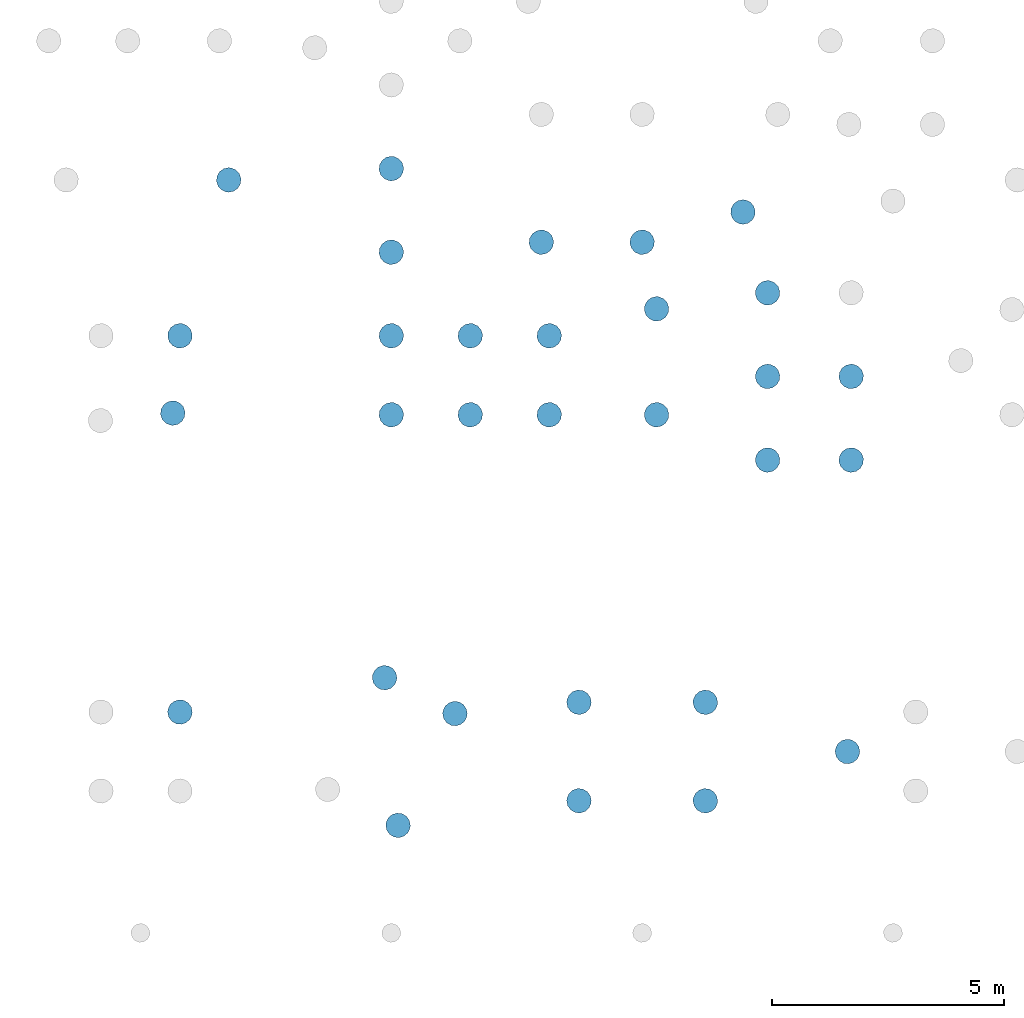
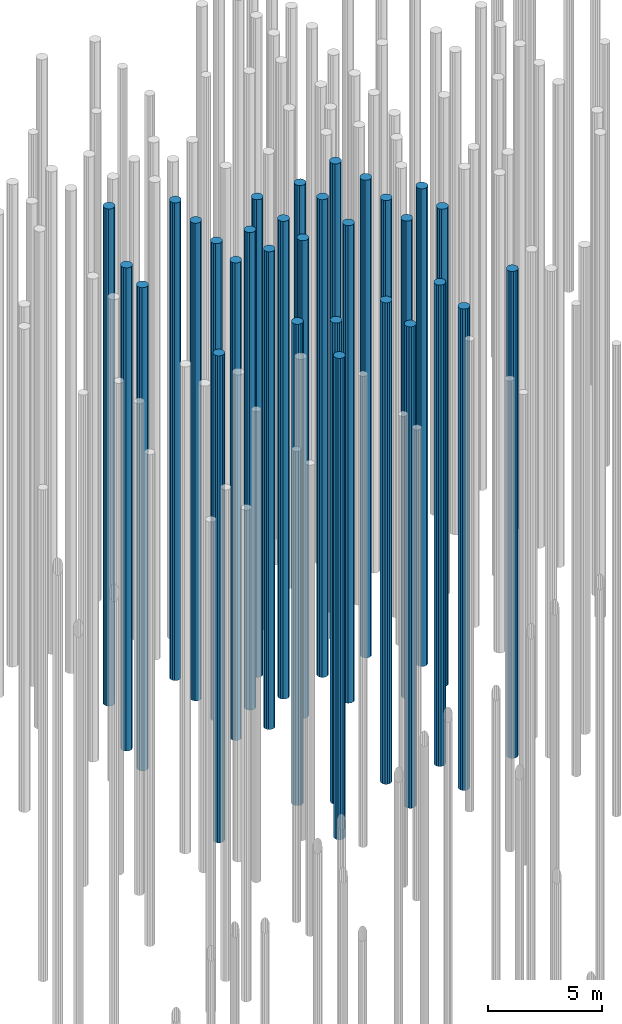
# One storey, part 7 of 20: 30 piles.
"""IFC2X3 building model written with IfcOpenShell, lengths in millimetres."""

from ifc_helpers import new_model, entity, si_unit, converted_unit, derived_unit, direction, frame, origin, place, context, subcontext, project, spatial, polyline, outline, extrude, material, element, save


model = new_model("IFC2X3")

# Units and contexts
model_context = context("Model", 3, precision=0.01, world=origin(), true_north=direction((6.12303176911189e-17, 1.0)))
body_context = subcontext(model_context, "Body", "Model", "MODEL_VIEW")
ifc_project = project(units=[si_unit("LENGTHUNIT", "METRE", prefix="MILLI"), si_unit("AREAUNIT", "SQUARE_METRE"), si_unit("VOLUMEUNIT", "CUBIC_METRE"), converted_unit("PLANEANGLEUNIT", "DEGREE", entity("IfcRatioMeasure", 0.0174532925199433), si_unit("PLANEANGLEUNIT", "RADIAN"), dimensions=[0, 0, 0, 0, 0, 0, 0]), si_unit("MASSUNIT", "GRAM", prefix="KILO"), derived_unit("MASSDENSITYUNIT", [(si_unit("MASSUNIT", "GRAM", prefix="KILO"), 1), (si_unit("LENGTHUNIT", "METRE"), -3)]), si_unit("TIMEUNIT", "SECOND"), si_unit("FREQUENCYUNIT", "HERTZ"), si_unit("THERMODYNAMICTEMPERATUREUNIT", "DEGREE_CELSIUS"), derived_unit("THERMALTRANSMITTANCEUNIT", [(si_unit("MASSUNIT", "GRAM", prefix="KILO"), 1), (si_unit("THERMODYNAMICTEMPERATUREUNIT", "KELVIN"), -1), (si_unit("TIMEUNIT", "SECOND"), -3)]), derived_unit("VOLUMETRICFLOWRATEUNIT", [(si_unit("LENGTHUNIT", "METRE"), 3), (si_unit("TIMEUNIT", "SECOND"), -1)]), si_unit("ELECTRICCURRENTUNIT", "AMPERE"), si_unit("ELECTRICVOLTAGEUNIT", "VOLT"), si_unit("POWERUNIT", "WATT"), si_unit("FORCEUNIT", "NEWTON", prefix="KILO"), si_unit("ILLUMINANCEUNIT", "LUX"), si_unit("LUMINOUSFLUXUNIT", "LUMEN"), si_unit("LUMINOUSINTENSITYUNIT", "CANDELA"), derived_unit("USERDEFINED", [(si_unit("MASSUNIT", "GRAM", prefix="KILO"), -1), (si_unit("LENGTHUNIT", "METRE"), -2), (si_unit("TIMEUNIT", "SECOND"), 3), (si_unit("LUMINOUSFLUXUNIT", "LUMEN"), 1)]), derived_unit("LINEARVELOCITYUNIT", [(si_unit("LENGTHUNIT", "METRE"), 1), (si_unit("TIMEUNIT", "SECOND"), -1)]), si_unit("PRESSUREUNIT", "PASCAL"), derived_unit("USERDEFINED", [(si_unit("LENGTHUNIT", "METRE"), -2), (si_unit("MASSUNIT", "GRAM", prefix="KILO"), 1), (si_unit("TIMEUNIT", "SECOND"), -2)])], contexts=[model_context])

# Site, building, storey
site_placement = place(None, origin())
site = spatial("IfcSite", under=ifc_project, at=site_placement, Name="Default", CompositionType="ELEMENT")
building_placement = place(site_placement, origin())
building = spatial("IfcBuilding", under=site, at=building_placement, Name="niet gebruiken", CompositionType="ELEMENT")
storey_placement = place(building_placement, frame((0.0, 0.0, -4000.0)))
storey = spatial("IfcBuildingStorey", under=building, at=storey_placement, Name="Level t.b.v. palenplan", CompositionType="ELEMENT", Elevation=-4000.0)

# Piles
ifc_material = material(Name="NLRS_f2_beton ihwg")
pile_1_placement = place(storey_placement, origin())
element("IfcPile", 1, at=pile_1_placement, inside=storey, material=ifc_material, Name="NLRS_17.12_SFO_TLB_funderingspaal grondverdringend_gen:Fundex_r530/650", ObjectType="NLRS_17.12_SFO_TLB_funderingspaal grondverdringend_gen:Fundex_r530/650", context=body_context, shape_type="SweptSolid", body=[
    extrude(outline(polyline([(-55.0965980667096, -259.209114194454), (55.0965980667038, -259.209114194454), (155.763091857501, -214.389503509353), (229.496732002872, -132.499999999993), (263.548302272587, -27.7000427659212), (252.029976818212, 81.8895035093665), (196.933378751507, 177.319610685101), (107.785210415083, 242.089546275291), (55.0965980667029, 259.209114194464), (-55.0965980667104, 259.209114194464), (-155.763091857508, 214.389503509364), (-229.496732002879, 132.500000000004), (-263.548302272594, 27.7000427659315), (-252.029976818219, -81.8895035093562), (-196.933378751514, -177.319610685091), (-107.78521041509, -242.089546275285), (-55.0965980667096, -259.209114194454)])), frame((33250.0, 29731.0, -23600.0), z_axis=(0.0, 0.0, 1.0), x_axis=(0.207911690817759, -0.978147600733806, 0.0)), (0.0, 0.0, 1.0), 26070.0),
])
pile_2_placement = place(storey_placement, origin())
element("IfcPile", 2, at=pile_2_placement, inside=storey, material=ifc_material, Name="NLRS_17.12_SFO_TLB_funderingspaal grondverdringend_gen:Fundex_r530/650", ObjectType="NLRS_17.12_SFO_TLB_funderingspaal grondverdringend_gen:Fundex_r530/650", context=body_context, shape_type="SweptSolid", body=[
    extrude(outline(polyline([(-55.0965980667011, -259.209114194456), (55.0965980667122, -259.209114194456), (155.76309185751, -214.389503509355), (229.49673200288, -132.499999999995), (263.548302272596, -27.700042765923), (252.029976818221, 81.8895035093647), (196.933378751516, 177.3196106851), (107.785210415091, 242.089546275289), (55.0965980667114, 259.209114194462), (-55.096598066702, 259.209114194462), (-155.763091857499, 214.389503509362), (-229.49673200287, 132.500000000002), (-263.548302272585, 27.7000427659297), (-252.029976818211, -81.889503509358), (-196.933378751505, -177.319610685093), (-107.785210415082, -242.089546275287), (-55.0965980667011, -259.209114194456)])), frame((37655.0, 30470.0, -23600.0), z_axis=(0.0, 0.0, 1.0), x_axis=(0.207911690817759, -0.978147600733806, 0.0)), (0.0, 0.0, 1.0), 25770.0),
])
pile_3_placement = place(storey_placement, origin())
element("IfcPile", 3, at=pile_3_placement, inside=storey, material=ifc_material, Name="NLRS_17.12_SFO_TLB_funderingspaal grondverdringend_gen:Fundex_r530/650", ObjectType="NLRS_17.12_SFO_TLB_funderingspaal grondverdringend_gen:Fundex_r530/650", context=body_context, shape_type="SweptSolid", body=[
    extrude(outline(polyline([(-55.0965980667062, -259.209114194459), (55.0965980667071, -259.209114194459), (155.763091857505, -214.389503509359), (229.496732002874, -132.500000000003), (263.54830227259, -27.7000427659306), (252.029976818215, 81.8895035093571), (196.933378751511, 177.319610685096), (107.785210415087, 242.08954627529), (55.0965980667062, 259.209114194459), (-55.096598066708, 259.209114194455), (-155.763091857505, 214.389503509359), (-229.496732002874, 132.500000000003), (-263.54830227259, 27.7000427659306), (-252.029976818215, -81.8895035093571), (-196.933378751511, -177.319610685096), (-107.785210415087, -242.08954627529), (-55.0965980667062, -259.209114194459)])), frame((39170.0, 29698.0, -23600.0), z_axis=(0.0, 0.0, 1.0), x_axis=(0.207911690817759, -0.978147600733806, 0.0)), (0.0, 0.0, 1.0), 25770.0),
])
pile_4_placement = place(storey_placement, origin())
element("IfcPile", 4, at=pile_4_placement, inside=storey, material=ifc_material, Name="NLRS_17.12_SFO_TLB_funderingspaal grondverdringend_gen:Fundex_r530/650", ObjectType="NLRS_17.12_SFO_TLB_funderingspaal grondverdringend_gen:Fundex_r530/650", context=body_context, shape_type="SweptSolid", body=[
    extrude(outline(polyline([(-55.0965980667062, -259.209114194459), (55.0965980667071, -259.209114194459), (155.763091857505, -214.389503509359), (229.496732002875, -132.499999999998), (263.548302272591, -27.7000427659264), (252.029976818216, 81.8895035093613), (196.933378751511, 177.319610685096), (107.785210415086, 242.089546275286), (55.0965980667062, 259.209114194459), (-55.0965980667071, 259.209114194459), (-155.763091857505, 214.389503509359), (-229.496732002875, 132.499999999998), (-263.548302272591, 27.7000427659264), (-252.029976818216, -81.8895035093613), (-196.933378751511, -177.319610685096), (-107.785210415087, -242.08954627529), (-55.0965980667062, -259.209114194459)])), frame((37945.0, 27292.0, -23600.0), z_axis=(0.0, 0.0, 1.0), x_axis=(0.207911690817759, -0.978147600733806, 0.0)), (0.0, 0.0, 1.0), 25770.0),
])
pile_5_placement = place(storey_placement, origin())
element("IfcPile", 5, at=pile_5_placement, inside=storey, material=ifc_material, Name="NLRS_17.12_SFO_TLB_funderingspaal grondverdringend_gen:Fundex_r530/650", ObjectType="NLRS_17.12_SFO_TLB_funderingspaal grondverdringend_gen:Fundex_r530/650", context=body_context, shape_type="SweptSolid", body=[
    extrude(outline(polyline([(-55.0965980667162, -259.209114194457), (55.096598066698, -259.209114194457), (155.763091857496, -214.389503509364), (229.496732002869, -132.500000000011), (263.548302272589, -27.7000427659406), (252.029976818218, 81.8895035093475), (196.933378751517, 177.319610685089), (107.785210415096, 242.089546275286), (55.0965980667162, 259.209114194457), (-55.096598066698, 259.209114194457), (-155.763091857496, 214.389503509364), (-229.496732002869, 132.500000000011), (-263.548302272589, 27.7000427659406), (-252.029976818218, -81.8895035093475), (-196.933378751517, -177.319610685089), (-107.785210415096, -242.089546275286), (-55.0965980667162, -259.209114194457)])), frame((41840.0, 29941.0, -23600.0), z_axis=(0.0, 0.0, 1.0), x_axis=(0.207911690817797, -0.978147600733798, 0.0)), (0.0, 0.0, 1.0), 25770.0),
])
pile_6_placement = place(storey_placement, origin())
element("IfcPile", 6, at=pile_6_placement, inside=storey, material=ifc_material, Name="NLRS_17.12_SFO_TLB_funderingspaal grondverdringend_gen:Fundex_r530/650", ObjectType="NLRS_17.12_SFO_TLB_funderingspaal grondverdringend_gen:Fundex_r530/650", context=body_context, shape_type="SweptSolid", body=[
    extrude(outline(polyline([(-55.0965980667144, -259.209114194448), (55.0965980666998, -259.209114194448), (155.763091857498, -214.389503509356), (229.496732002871, -132.500000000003), (263.54830227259, -27.7000427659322), (252.02997681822, 81.889503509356), (196.933378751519, 177.319610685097), (107.785210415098, 242.089546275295), (55.096598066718, 259.209114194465), (-55.0965980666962, 259.209114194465), (-155.763091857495, 214.389503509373), (-229.496732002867, 132.50000000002), (-263.548302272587, 27.7000427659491), (-252.029976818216, -81.8895035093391), (-196.933378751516, -177.31961068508), (-107.785210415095, -242.089546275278), (-55.0965980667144, -259.209114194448)])), frame((44560.0, 29941.0, -23600.0), z_axis=(0.0, 0.0, 1.0), x_axis=(0.207911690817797, -0.978147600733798, 0.0)), (0.0, 0.0, 1.0), 25770.0),
])
pile_7_placement = place(storey_placement, origin())
element("IfcPile", 7, at=pile_7_placement, inside=storey, material=ifc_material, Name="NLRS_17.12_SFO_TLB_funderingspaal grondverdringend_gen:Fundex_r530/650", ObjectType="NLRS_17.12_SFO_TLB_funderingspaal grondverdringend_gen:Fundex_r530/650", context=body_context, shape_type="SweptSolid", body=[
    extrude(outline(polyline([(-55.0965980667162, -259.209114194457), (55.096598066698, -259.209114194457), (155.763091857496, -214.389503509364), (229.496732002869, -132.500000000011), (263.548302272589, -27.7000427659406), (252.029976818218, 81.8895035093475), (196.933378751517, 177.319610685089), (107.785210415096, 242.089546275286), (55.0965980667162, 259.209114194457), (-55.096598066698, 259.209114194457), (-155.763091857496, 214.389503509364), (-229.496732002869, 132.500000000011), (-263.548302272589, 27.7000427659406), (-252.029976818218, -81.8895035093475), (-196.933378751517, -177.319610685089), (-107.785210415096, -242.089546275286), (-55.0965980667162, -259.209114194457)])), frame((44560.0, 27821.0, -23600.0), z_axis=(0.0, 0.0, 1.0), x_axis=(0.207911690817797, -0.978147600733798, 0.0)), (0.0, 0.0, 1.0), 25770.0),
])
pile_8_placement = place(storey_placement, origin())
element("IfcPile", 8, at=pile_8_placement, inside=storey, material=ifc_material, Name="NLRS_17.12_SFO_TLB_funderingspaal grondverdringend_gen:Fundex_r530/650", ObjectType="NLRS_17.12_SFO_TLB_funderingspaal grondverdringend_gen:Fundex_r530/650", context=body_context, shape_type="SweptSolid", body=[
    extrude(outline(polyline([(-55.0965980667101, -259.209114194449), (55.0965980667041, -259.209114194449), (155.763091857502, -214.389503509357), (229.496732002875, -132.500000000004), (263.548302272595, -27.7000427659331), (252.029976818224, 81.8895035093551), (196.933378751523, 177.319610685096), (107.785210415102, 242.089546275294), (55.0965980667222, 259.209114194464), (-55.096598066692, 259.209114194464), (-155.76309185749, 214.389503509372), (-229.496732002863, 132.500000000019), (-263.548302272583, 27.7000427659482), (-252.029976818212, -81.8895035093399), (-196.933378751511, -177.319610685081), (-107.78521041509, -242.089546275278), (-55.0965980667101, -259.209114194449)])), frame((41840.0, 27821.0, -23600.0), z_axis=(0.0, 0.0, 1.0), x_axis=(0.207911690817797, -0.978147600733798, 0.0)), (0.0, 0.0, 1.0), 25770.0),
])
pile_9_placement = place(storey_placement, origin())
element("IfcPile", 9, at=pile_9_placement, inside=storey, material=ifc_material, Name="NLRS_17.12_SFO_TLB_funderingspaal grondverdringend_gen:Fundex_r530/650", ObjectType="NLRS_17.12_SFO_TLB_funderingspaal grondverdringend_gen:Fundex_r530/650", context=body_context, shape_type="SweptSolid", body=[
    extrude(outline(polyline([(-55.0965980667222, -259.209114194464), (55.096598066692, -259.209114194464), (155.76309185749, -214.389503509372), (229.496732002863, -132.500000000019), (263.548302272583, -27.7000427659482), (252.029976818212, 81.8895035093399), (196.933378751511, 177.319610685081), (107.78521041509, 242.089546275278), (55.0965980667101, 259.209114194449), (-55.0965980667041, 259.209114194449), (-155.763091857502, 214.389503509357), (-229.496732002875, 132.500000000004), (-263.548302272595, 27.7000427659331), (-252.029976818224, -81.8895035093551), (-196.933378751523, -177.319610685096), (-107.785210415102, -242.089546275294), (-55.0965980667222, -259.209114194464)])), frame((47620.0, 28881.0, -23600.0), z_axis=(0.0, 0.0, 1.0), x_axis=(0.207911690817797, -0.978147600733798, 0.0)), (0.0, 0.0, 1.0), 26070.0),
])
pile_10_placement = place(storey_placement, origin())
element("IfcPile", 10, at=pile_10_placement, inside=storey, material=ifc_material, Name="NLRS_17.12_SFO_TLB_funderingspaal grondverdringend_gen:Fundex_r530/650", ObjectType="NLRS_17.12_SFO_TLB_funderingspaal grondverdringend_gen:Fundex_r530/650", context=body_context, shape_type="SweptSolid", body=[
    extrude(outline(polyline([(-55.096598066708, -259.209114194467), (55.0965980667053, -259.209114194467), (155.763091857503, -214.389503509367), (229.496732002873, -132.500000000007), (263.548302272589, -27.7000427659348), (252.029976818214, 81.8895035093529), (196.933378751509, 177.319610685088), (107.785210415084, 242.089546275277), (55.0965980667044, 259.20911419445), (-55.0965980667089, 259.20911419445), (-155.763091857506, 214.38950350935), (-229.496732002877, 132.49999999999), (-263.548302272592, 27.7000427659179), (-252.029976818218, -81.8895035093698), (-196.933378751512, -177.319610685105), (-107.785210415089, -242.089546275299), (-55.096598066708, -259.209114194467)])), frame((33250.0, 37831.0, -23600.0), z_axis=(0.0, 0.0, 1.0), x_axis=(-0.978147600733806, -0.207911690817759, 0.0)), (0.0, 0.0, 1.0), 25868.0),
])
pile_11_placement = place(storey_placement, origin())
element("IfcPile", 11, at=pile_11_placement, inside=storey, material=ifc_material, Name="NLRS_17.12_SFO_TLB_funderingspaal grondverdringend_gen:Fundex_r530/650", ObjectType="NLRS_17.12_SFO_TLB_funderingspaal grondverdringend_gen:Fundex_r530/650", context=body_context, shape_type="SweptSolid", body=[
    extrude(outline(polyline([(-55.0965980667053, -259.209114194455), (55.096598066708, -259.209114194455), (155.763091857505, -214.389503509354), (229.496732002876, -132.499999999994), (263.548302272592, -27.7000427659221), (252.029976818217, 81.8895035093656), (196.933378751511, 177.3196106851), (107.785210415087, 242.08954627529), (55.0965980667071, 259.209114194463), (-55.0965980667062, 259.209114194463), (-155.763091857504, 214.389503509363), (-229.496732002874, 132.500000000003), (-263.54830227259, 27.7000427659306), (-252.029976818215, -81.8895035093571), (-196.93337875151, -177.319610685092), (-107.785210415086, -242.089546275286), (-55.0965980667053, -259.209114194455)])), frame((33096.0, 36167.0, -23600.0), z_axis=(0.0, 0.0, 1.0), x_axis=(-0.978147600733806, -0.207911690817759, 0.0)), (0.0, 0.0, 1.0), 25868.0),
])
pile_12_placement = place(storey_placement, origin())
element("IfcPile", 12, at=pile_12_placement, inside=storey, material=ifc_material, Name="NLRS_17.12_SFO_TLB_funderingspaal grondverdringend_gen:Fundex_r530/650", ObjectType="NLRS_17.12_SFO_TLB_funderingspaal grondverdringend_gen:Fundex_r530/650", context=body_context, shape_type="SweptSolid", body=[
    extrude(outline(polyline([(-55.0965980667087, -259.20911419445), (55.0965980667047, -259.20911419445), (155.763091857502, -214.389503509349), (229.496732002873, -132.499999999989), (263.548302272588, -27.700042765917), (252.029976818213, 81.8895035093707), (196.933378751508, 177.319610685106), (107.785210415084, 242.089546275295), (55.0965980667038, 259.209114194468), (-55.0965980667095, 259.209114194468), (-155.763091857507, 214.389503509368), (-229.496732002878, 132.500000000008), (-263.548302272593, 27.7000427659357), (-252.029976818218, -81.889503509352), (-196.933378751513, -177.319610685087), (-107.78521041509, -242.089546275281), (-55.0965980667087, -259.20911419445)])), frame((37800.0, 36131.0, -23600.0), z_axis=(0.0, 0.0, 1.0), x_axis=(-0.978147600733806, -0.207911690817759, 0.0)), (0.0, 0.0, 1.0), 25570.0),
])
pile_13_placement = place(storey_placement, origin())
element("IfcPile", 13, at=pile_13_placement, inside=storey, material=ifc_material, Name="NLRS_17.12_SFO_TLB_funderingspaal grondverdringend_gen:Fundex_r530/650", ObjectType="NLRS_17.12_SFO_TLB_funderingspaal grondverdringend_gen:Fundex_r530/650", context=body_context, shape_type="SweptSolid", body=[
    extrude(outline(polyline([(-55.0965980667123, -259.209114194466), (55.0965980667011, -259.209114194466), (155.763091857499, -214.389503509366), (229.496732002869, -132.500000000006), (263.548302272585, -27.7000427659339), (252.02997681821, 81.8895035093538), (196.933378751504, 177.319610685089), (107.78521041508, 242.089546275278), (55.0965980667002, 259.209114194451), (-55.0965980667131, 259.209114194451), (-155.763091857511, 214.389503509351), (-229.496732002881, 132.499999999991), (-263.548302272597, 27.7000427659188), (-252.029976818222, -81.8895035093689), (-196.933378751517, -177.319610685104), (-107.785210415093, -242.089546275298), (-55.0965980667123, -259.209114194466)])), frame((37800.0, 37831.0, -23600.0), z_axis=(0.0, 0.0, 1.0), x_axis=(-0.978147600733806, -0.207911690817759, 0.0)), (0.0, 0.0, 1.0), 25570.0),
])
pile_14_placement = place(storey_placement, origin())
element("IfcPile", 14, at=pile_14_placement, inside=storey, material=ifc_material, Name="NLRS_17.12_SFO_TLB_funderingspaal grondverdringend_gen:Fundex_r530/650", ObjectType="NLRS_17.12_SFO_TLB_funderingspaal grondverdringend_gen:Fundex_r530/650", context=body_context, shape_type="SweptSolid", body=[
    extrude(outline(polyline([(-55.096598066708, -259.209114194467), (55.0965980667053, -259.209114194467), (155.763091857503, -214.389503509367), (229.496732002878, -132.500000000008), (263.548302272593, -27.7000427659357), (252.029976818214, 81.8895035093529), (196.933378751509, 177.319610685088), (107.785210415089, 242.089546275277), (55.0965980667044, 259.20911419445), (-55.0965980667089, 259.20911419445), (-155.763091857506, 214.38950350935), (-229.496732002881, 132.499999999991), (-263.548302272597, 27.7000427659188), (-252.029976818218, -81.8895035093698), (-196.933378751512, -177.319610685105), (-107.785210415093, -242.089546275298), (-55.096598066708, -259.209114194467)])), frame((39500.0, 37831.0, -23600.0), z_axis=(0.0, 0.0, 1.0), x_axis=(-0.978147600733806, -0.207911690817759, 0.0)), (0.0, 0.0, 1.0), 25570.0),
])
pile_15_placement = place(storey_placement, origin())
element("IfcPile", 15, at=pile_15_placement, inside=storey, material=ifc_material, Name="NLRS_17.12_SFO_TLB_funderingspaal grondverdringend_gen:Fundex_r530/650", ObjectType="NLRS_17.12_SFO_TLB_funderingspaal grondverdringend_gen:Fundex_r530/650", context=body_context, shape_type="SweptSolid", body=[
    extrude(outline(polyline([(-55.0965980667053, -259.209114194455), (55.096598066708, -259.209114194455), (155.763091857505, -214.389503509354), (229.49673200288, -132.499999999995), (263.548302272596, -27.700042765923), (252.029976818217, 81.8895035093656), (196.933378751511, 177.3196106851), (107.785210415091, 242.089546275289), (55.0965980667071, 259.209114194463), (-55.0965980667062, 259.209114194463), (-155.763091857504, 214.389503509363), (-229.496732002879, 132.500000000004), (-263.548302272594, 27.7000427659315), (-252.029976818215, -81.8895035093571), (-196.93337875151, -177.319610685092), (-107.78521041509, -242.089546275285), (-55.0965980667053, -259.209114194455)])), frame((39500.0, 36131.0, -23600.0), z_axis=(0.0, 0.0, 1.0), x_axis=(-0.978147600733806, -0.207911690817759, 0.0)), (0.0, 0.0, 1.0), 25570.0),
])
pile_16_placement = place(storey_placement, origin())
element("IfcPile", 16, at=pile_16_placement, inside=storey, material=ifc_material, Name="NLRS_17.12_SFO_TLB_funderingspaal grondverdringend_gen:Fundex_r530/650", ObjectType="NLRS_17.12_SFO_TLB_funderingspaal grondverdringend_gen:Fundex_r530/650", context=body_context, shape_type="SweptSolid", body=[
    extrude(outline(polyline([(-55.096598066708, -259.209114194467), (55.0965980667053, -259.209114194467), (155.763091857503, -214.389503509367), (229.496732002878, -132.500000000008), (263.548302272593, -27.7000427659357), (252.029976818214, 81.8895035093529), (196.933378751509, 177.319610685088), (107.785210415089, 242.089546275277), (55.0965980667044, 259.20911419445), (-55.0965980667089, 259.20911419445), (-155.763091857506, 214.38950350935), (-229.496732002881, 132.499999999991), (-263.548302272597, 27.7000427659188), (-252.029976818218, -81.8895035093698), (-196.933378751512, -177.319610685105), (-107.785210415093, -242.089546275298), (-55.096598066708, -259.209114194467)])), frame((41200.0, 37831.0, -23600.0), z_axis=(0.0, 0.0, 1.0), x_axis=(-0.978147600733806, -0.207911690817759, 0.0)), (0.0, 0.0, 1.0), 25570.0),
])
pile_17_placement = place(storey_placement, origin())
element("IfcPile", 17, at=pile_17_placement, inside=storey, material=ifc_material, Name="NLRS_17.12_SFO_TLB_funderingspaal grondverdringend_gen:Fundex_r530/650", ObjectType="NLRS_17.12_SFO_TLB_funderingspaal grondverdringend_gen:Fundex_r530/650", context=body_context, shape_type="SweptSolid", body=[
    extrude(outline(polyline([(-55.0965980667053, -259.209114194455), (55.096598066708, -259.209114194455), (155.763091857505, -214.389503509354), (229.49673200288, -132.499999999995), (263.548302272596, -27.700042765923), (252.029976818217, 81.8895035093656), (196.933378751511, 177.3196106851), (107.785210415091, 242.089546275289), (55.0965980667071, 259.209114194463), (-55.0965980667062, 259.209114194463), (-155.763091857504, 214.389503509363), (-229.496732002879, 132.500000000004), (-263.548302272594, 27.7000427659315), (-252.029976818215, -81.8895035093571), (-196.93337875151, -177.319610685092), (-107.78521041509, -242.089546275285), (-55.0965980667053, -259.209114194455)])), frame((41200.0, 36131.0, -23600.0), z_axis=(0.0, 0.0, 1.0), x_axis=(-0.978147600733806, -0.207911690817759, 0.0)), (0.0, 0.0, 1.0), 25570.0),
])
pile_18_placement = place(storey_placement, origin())
element("IfcPile", 18, at=pile_18_placement, inside=storey, material=ifc_material, Name="NLRS_17.12_SFO_TLB_funderingspaal grondverdringend_gen:Fundex_r530/650", ObjectType="NLRS_17.12_SFO_TLB_funderingspaal grondverdringend_gen:Fundex_r530/650", context=body_context, shape_type="SweptSolid", body=[
    extrude(outline(polyline([(-55.0965980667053, -259.209114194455), (55.096598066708, -259.209114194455), (155.763091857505, -214.389503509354), (229.49673200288, -132.499999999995), (263.548302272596, -27.700042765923), (252.029976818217, 81.8895035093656), (196.933378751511, 177.3196106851), (107.785210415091, 242.089546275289), (55.0965980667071, 259.209114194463), (-55.0965980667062, 259.209114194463), (-155.763091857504, 214.389503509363), (-229.496732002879, 132.500000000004), (-263.548302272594, 27.7000427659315), (-252.029976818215, -81.8895035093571), (-196.93337875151, -177.319610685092), (-107.78521041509, -242.089546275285), (-55.0965980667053, -259.209114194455)])), frame((43510.0, 36131.0, -23600.0), z_axis=(0.0, 0.0, 1.0), x_axis=(-0.978147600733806, -0.207911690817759, 0.0)), (0.0, 0.0, 1.0), 25570.0),
])
pile_19_placement = place(storey_placement, origin())
element("IfcPile", 19, at=pile_19_placement, inside=storey, material=ifc_material, Name="NLRS_17.12_SFO_TLB_funderingspaal grondverdringend_gen:Fundex_r530/650", ObjectType="NLRS_17.12_SFO_TLB_funderingspaal grondverdringend_gen:Fundex_r530/650", context=body_context, shape_type="SweptSolid", body=[
    extrude(outline(polyline([(-55.096598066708, -259.209114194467), (55.0965980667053, -259.209114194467), (155.763091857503, -214.389503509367), (229.496732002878, -132.500000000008), (263.548302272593, -27.7000427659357), (252.029976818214, 81.8895035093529), (196.933378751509, 177.319610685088), (107.785210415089, 242.089546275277), (55.0965980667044, 259.20911419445), (-55.0965980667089, 259.20911419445), (-155.763091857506, 214.38950350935), (-229.496732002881, 132.499999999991), (-263.548302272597, 27.7000427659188), (-252.029976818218, -81.8895035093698), (-196.933378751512, -177.319610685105), (-107.785210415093, -242.089546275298), (-55.096598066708, -259.209114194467)])), frame((45900.0, 36956.0, -23600.0), z_axis=(0.0, 0.0, 1.0), x_axis=(-0.978147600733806, -0.207911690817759, 0.0)), (0.0, 0.0, 1.0), 25570.0),
])
pile_20_placement = place(storey_placement, origin())
element("IfcPile", 20, at=pile_20_placement, inside=storey, material=ifc_material, Name="NLRS_17.12_SFO_TLB_funderingspaal grondverdringend_gen:Fundex_r530/650", ObjectType="NLRS_17.12_SFO_TLB_funderingspaal grondverdringend_gen:Fundex_r530/650", context=body_context, shape_type="SweptSolid", body=[
    extrude(outline(polyline([(-55.0965980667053, -259.209114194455), (55.096598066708, -259.209114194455), (155.763091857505, -214.389503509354), (229.49673200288, -132.499999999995), (263.548302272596, -27.700042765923), (252.029976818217, 81.8895035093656), (196.933378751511, 177.3196106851), (107.785210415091, 242.089546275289), (55.0965980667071, 259.209114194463), (-55.0965980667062, 259.209114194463), (-155.763091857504, 214.389503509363), (-229.496732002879, 132.500000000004), (-263.548302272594, 27.7000427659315), (-252.029976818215, -81.8895035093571), (-196.93337875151, -177.319610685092), (-107.78521041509, -242.089546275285), (-55.0965980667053, -259.209114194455)])), frame((47700.0, 36956.0, -23600.0), z_axis=(0.0, 0.0, 1.0), x_axis=(-0.978147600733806, -0.207911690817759, 0.0)), (0.0, 0.0, 1.0), 25570.0),
])
pile_21_placement = place(storey_placement, origin())
element("IfcPile", 21, at=pile_21_placement, inside=storey, material=ifc_material, Name="NLRS_17.12_SFO_TLB_funderingspaal grondverdringend_gen:Fundex_r530/650", ObjectType="NLRS_17.12_SFO_TLB_funderingspaal grondverdringend_gen:Fundex_r530/650", context=body_context, shape_type="SweptSolid", body=[
    extrude(outline(polyline([(-55.0965980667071, -259.209114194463), (55.0965980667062, -259.209114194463), (155.763091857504, -214.389503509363), (229.496732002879, -132.500000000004), (263.548302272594, -27.7000427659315), (252.029976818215, 81.8895035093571), (196.93337875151, 177.319610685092), (107.78521041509, 242.089546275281), (55.0965980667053, 259.209114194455), (-55.096598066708, 259.209114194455), (-155.763091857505, 214.389503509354), (-229.49673200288, 132.499999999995), (-263.548302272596, 27.700042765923), (-252.029976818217, -81.8895035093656), (-196.933378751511, -177.3196106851), (-107.785210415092, -242.089546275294), (-55.0965980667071, -259.209114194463)])), frame((45900.0, 38756.0, -23600.0), z_axis=(0.0, 0.0, 1.0), x_axis=(-0.978147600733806, -0.207911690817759, 0.0)), (0.0, 0.0, 1.0), 25570.0),
])
pile_22_placement = place(storey_placement, origin())
element("IfcPile", 22, at=pile_22_placement, inside=storey, material=ifc_material, Name="NLRS_17.12_SFO_TLB_funderingspaal grondverdringend_gen:Fundex_r530/650", ObjectType="NLRS_17.12_SFO_TLB_funderingspaal grondverdringend_gen:Fundex_r530/650", context=body_context, shape_type="SweptSolid", body=[
    extrude(outline(polyline([(-55.0965980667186, -259.209114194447), (55.0965980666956, -259.209114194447), (155.763091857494, -214.389503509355), (229.496732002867, -132.500000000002), (263.548302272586, -27.7000427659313), (252.029976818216, 81.8895035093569), (196.933378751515, 177.319610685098), (107.785210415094, 242.089546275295), (55.0965980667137, 259.209114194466), (-55.0965980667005, 259.209114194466), (-155.763091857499, 214.389503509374), (-229.496732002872, 132.500000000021), (-263.548302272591, 27.70004276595), (-252.02997681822, -81.8895035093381), (-196.93337875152, -177.319610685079), (-107.785210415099, -242.089546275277), (-55.0965980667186, -259.209114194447)])), frame((37800.0, 39631.0, -23600.0), z_axis=(0.0, 0.0, 1.0), x_axis=(-0.978147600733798, -0.207911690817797, 0.0)), (0.0, 0.0, 1.0), 25570.0),
])
pile_23_placement = place(storey_placement, origin())
element("IfcPile", 23, at=pile_23_placement, inside=storey, material=ifc_material, Name="NLRS_17.12_SFO_TLB_funderingspaal grondverdringend_gen:Fundex_r530/650", ObjectType="NLRS_17.12_SFO_TLB_funderingspaal grondverdringend_gen:Fundex_r530/650", context=body_context, shape_type="SweptSolid", body=[
    extrude(outline(polyline([(-55.0965980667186, -259.209114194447), (55.0965980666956, -259.209114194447), (155.763091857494, -214.389503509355), (229.496732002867, -132.500000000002), (263.548302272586, -27.7000427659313), (252.029976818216, 81.8895035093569), (196.933378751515, 177.319610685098), (107.785210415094, 242.089546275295), (55.0965980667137, 259.209114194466), (-55.0965980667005, 259.209114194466), (-155.763091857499, 214.389503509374), (-229.496732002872, 132.500000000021), (-263.548302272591, 27.70004276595), (-252.02997681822, -81.8895035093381), (-196.93337875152, -177.319610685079), (-107.785210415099, -242.089546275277), (-55.0965980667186, -259.209114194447)])), frame((37800.0, 41431.0, -23600.0), z_axis=(0.0, 0.0, 1.0), x_axis=(-0.978147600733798, -0.207911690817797, 0.0)), (0.0, 0.0, 1.0), 25570.0),
])
pile_24_placement = place(storey_placement, origin())
element("IfcPile", 24, at=pile_24_placement, inside=storey, material=ifc_material, Name="NLRS_17.12_SFO_TLB_funderingspaal grondverdringend_gen:Fundex_r530/650", ObjectType="NLRS_17.12_SFO_TLB_funderingspaal grondverdringend_gen:Fundex_r530/650", context=body_context, shape_type="SweptSolid", body=[
    extrude(outline(polyline([(-55.0965980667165, -259.209114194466), (55.0965980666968, -259.209114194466), (155.763091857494, -214.389503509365), (229.496732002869, -132.500000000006), (263.548302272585, -27.7000427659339), (252.029976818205, 81.8895035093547), (196.9333787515, 177.31961068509), (107.78521041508, 242.089546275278), (55.0965980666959, 259.209114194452), (-55.0965980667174, 259.209114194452), (-155.763091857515, 214.389503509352), (-229.49673200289, 132.499999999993), (-263.548302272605, 27.7000427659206), (-252.029976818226, -81.889503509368), (-196.933378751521, -177.319610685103), (-107.785210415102, -242.089546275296), (-55.0965980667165, -259.209114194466)])), frame((43510.0, 38411.0, -23600.0), z_axis=(0.0, 0.0, 1.0), x_axis=(-0.978147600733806, -0.207911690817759, 0.0)), (0.0, 0.0, 1.0), 25570.0),
])
pile_25_placement = place(storey_placement, origin())
element("IfcPile", 25, at=pile_25_placement, inside=storey, material=ifc_material, Name="NLRS_17.12_SFO_TLB_funderingspaal grondverdringend_gen:Fundex_r530/650", ObjectType="NLRS_17.12_SFO_TLB_funderingspaal grondverdringend_gen:Fundex_r530/650", context=body_context, shape_type="SweptSolid", body=[
    extrude(outline(polyline([(-55.0965980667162, -259.209114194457), (55.096598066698, -259.209114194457), (155.763091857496, -214.389503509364), (229.496732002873, -132.500000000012), (263.548302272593, -27.7000427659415), (252.029976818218, 81.8895035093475), (196.933378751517, 177.319610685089), (107.785210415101, 242.089546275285), (55.0965980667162, 259.209114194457), (-55.096598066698, 259.209114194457), (-155.763091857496, 214.389503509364), (-229.496732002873, 132.500000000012), (-263.548302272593, 27.7000427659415), (-252.029976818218, -81.8895035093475), (-196.933378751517, -177.319610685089), (-107.785210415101, -242.089546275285), (-55.0965980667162, -259.209114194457)])), frame((43200.0, 39846.0, -23600.0), z_axis=(0.0, 0.0, 1.0), x_axis=(-0.978147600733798, -0.207911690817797, 0.0)), (0.0, 0.0, 1.0), 25570.0),
])
pile_26_placement = place(storey_placement, origin())
element("IfcPile", 26, at=pile_26_placement, inside=storey, material=ifc_material, Name="NLRS_17.12_SFO_TLB_funderingspaal grondverdringend_gen:Fundex_r530/650", ObjectType="NLRS_17.12_SFO_TLB_funderingspaal grondverdringend_gen:Fundex_r530/650", context=body_context, shape_type="SweptSolid", body=[
    extrude(outline(polyline([(-55.0965980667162, -259.209114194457), (55.096598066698, -259.209114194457), (155.763091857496, -214.389503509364), (229.496732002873, -132.500000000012), (263.548302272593, -27.7000427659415), (252.029976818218, 81.8895035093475), (196.933378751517, 177.319610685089), (107.785210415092, 242.089546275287), (55.0965980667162, 259.209114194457), (-55.096598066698, 259.209114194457), (-155.763091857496, 214.389503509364), (-229.496732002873, 132.500000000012), (-263.548302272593, 27.7000427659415), (-252.029976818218, -81.8895035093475), (-196.933378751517, -177.319610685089), (-107.785210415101, -242.089546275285), (-55.0965980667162, -259.209114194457)])), frame((41030.0, 39846.0, -23600.0), z_axis=(0.0, 0.0, 1.0), x_axis=(-0.978147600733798, -0.207911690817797, 0.0)), (0.0, 0.0, 1.0), 25570.0),
])
pile_27_placement = place(storey_placement, origin())
element("IfcPile", 27, at=pile_27_placement, inside=storey, material=ifc_material, Name="NLRS_17.12_SFO_TLB_funderingspaal grondverdringend_gen:Fundex_r530/650", ObjectType="NLRS_17.12_SFO_TLB_funderingspaal grondverdringend_gen:Fundex_r530/650", context=body_context, shape_type="SweptSolid", body=[
    extrude(outline(polyline([(-55.0965980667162, -259.209114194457), (55.096598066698, -259.209114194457), (155.763091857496, -214.389503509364), (229.496732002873, -132.500000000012), (263.548302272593, -27.7000427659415), (252.029976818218, 81.8895035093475), (196.933378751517, 177.319610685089), (107.785210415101, 242.089546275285), (55.0965980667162, 259.209114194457), (-55.096598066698, 259.209114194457), (-155.763091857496, 214.389503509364), (-229.496732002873, 132.500000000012), (-263.548302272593, 27.7000427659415), (-252.029976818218, -81.8895035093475), (-196.933378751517, -177.319610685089), (-107.785210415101, -242.089546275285), (-55.0965980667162, -259.209114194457)])), frame((45370.0, 40496.0, -23600.0), z_axis=(0.0, 0.0, 1.0), x_axis=(-0.978147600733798, -0.207911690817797, 0.0)), (0.0, 0.0, 1.0), 25570.0),
])
pile_28_placement = place(storey_placement, origin())
element("IfcPile", 28, at=pile_28_placement, inside=storey, material=ifc_material, Name="NLRS_17.12_SFO_TLB_funderingspaal grondverdringend_gen:Fundex_r530/650", ObjectType="NLRS_17.12_SFO_TLB_funderingspaal grondverdringend_gen:Fundex_r530/650", context=body_context, shape_type="SweptSolid", body=[
    extrude(outline(polyline([(-55.0965980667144, -259.209114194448), (55.0965980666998, -259.209114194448), (155.763091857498, -214.389503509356), (229.496732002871, -132.500000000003), (263.54830227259, -27.7000427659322), (252.02997681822, 81.889503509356), (196.933378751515, 177.319610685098), (107.785210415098, 242.089546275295), (55.096598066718, 259.209114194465), (-55.0965980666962, 259.209114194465), (-155.763091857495, 214.389503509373), (-229.496732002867, 132.50000000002), (-263.548302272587, 27.7000427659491), (-252.029976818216, -81.8895035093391), (-196.933378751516, -177.31961068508), (-107.785210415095, -242.089546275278), (-55.0965980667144, -259.209114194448)])), frame((34300.0, 41186.0, -23600.0), z_axis=(0.0, 0.0, 1.0), x_axis=(-0.978147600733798, -0.207911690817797, 0.0)), (0.0, 0.0, 1.0), 26618.0),
])
pile_29_placement = place(storey_placement, origin())
element("IfcPile", 29, at=pile_29_placement, inside=storey, material=ifc_material, Name="NLRS_17.12_SFO_TLB_funderingspaal grondverdringend_gen:Fundex_r530/650", ObjectType="NLRS_17.12_SFO_TLB_funderingspaal grondverdringend_gen:Fundex_r530/650", context=body_context, shape_type="SweptSolid", body=[
    extrude(outline(polyline([(-55.096598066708, -259.209114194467), (55.0965980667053, -259.209114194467), (155.763091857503, -214.389503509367), (229.496732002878, -132.500000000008), (263.548302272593, -27.7000427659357), (252.029976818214, 81.8895035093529), (196.933378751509, 177.319610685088), (107.785210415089, 242.089546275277), (55.0965980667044, 259.20911419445), (-55.0965980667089, 259.20911419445), (-155.763091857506, 214.38950350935), (-229.496732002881, 132.499999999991), (-263.548302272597, 27.7000427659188), (-252.029976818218, -81.8895035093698), (-196.933378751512, -177.319610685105), (-107.785210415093, -242.089546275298), (-55.096598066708, -259.209114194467)])), frame((45900.0, 35156.0, -23600.0), z_axis=(0.0, 0.0, 1.0), x_axis=(-0.978147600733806, -0.207911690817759, 0.0)), (0.0, 0.0, 1.0), 25570.0),
])
pile_30_placement = place(storey_placement, origin())
element("IfcPile", 30, at=pile_30_placement, inside=storey, material=ifc_material, Name="NLRS_17.12_SFO_TLB_funderingspaal grondverdringend_gen:Fundex_r530/650", ObjectType="NLRS_17.12_SFO_TLB_funderingspaal grondverdringend_gen:Fundex_r530/650", context=body_context, shape_type="SweptSolid", body=[
    extrude(outline(polyline([(-55.0965980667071, -259.209114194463), (55.0965980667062, -259.209114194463), (155.763091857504, -214.389503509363), (229.496732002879, -132.500000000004), (263.548302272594, -27.7000427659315), (252.029976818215, 81.8895035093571), (196.93337875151, 177.319610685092), (107.78521041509, 242.089546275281), (55.0965980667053, 259.209114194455), (-55.096598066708, 259.209114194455), (-155.763091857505, 214.389503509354), (-229.49673200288, 132.499999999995), (-263.548302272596, 27.700042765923), (-252.029976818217, -81.8895035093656), (-196.933378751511, -177.3196106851), (-107.785210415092, -242.089546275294), (-55.0965980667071, -259.209114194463)])), frame((47700.0, 35156.0, -23600.0), z_axis=(0.0, 0.0, 1.0), x_axis=(-0.978147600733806, -0.207911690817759, 0.0)), (0.0, 0.0, 1.0), 25570.0),
])

save(model, "model.ifc")
